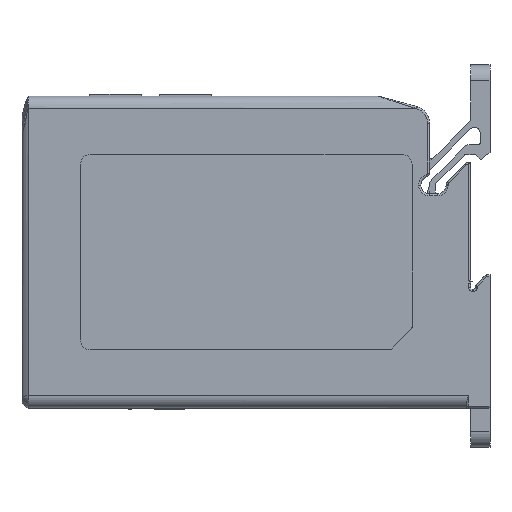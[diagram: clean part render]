
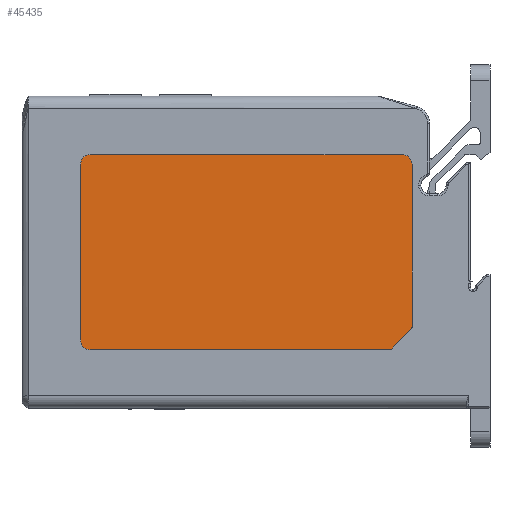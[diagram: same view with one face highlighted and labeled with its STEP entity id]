
A CAD part, front view. The second image highlights one B-rep face of the part: STEP entity #45435.
In plain terms, the highlighted planar face has unit normal (0, -1, 0).
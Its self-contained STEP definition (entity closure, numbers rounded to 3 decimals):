
#21811=DIRECTION('',(-1.,0.,0.));
#21812=VECTOR('',#21811,76.793);
#21813=CARTESIAN_POINT('',(36.793,-1.75,-25.));
#21814=LINE('',#21813,#21812);
#21823=DIRECTION('',(0.707,0.,0.707));
#21824=VECTOR('',#21823,7.364);
#21825=CARTESIAN_POINT('',(37.146,-1.75,-24.854));
#21826=LINE('',#21825,#21824);
#21827=CARTESIAN_POINT('',(36.793,-1.75,-24.5));
#21828=DIRECTION('',(0.,-1.,0.));
#21829=DIRECTION('',(0.,0.,-1.));
#21830=AXIS2_PLACEMENT_3D('',#21827,#21828,#21829);
#21832=CARTESIAN_POINT('',(-40.,-1.75,-22.5));
#21833=DIRECTION('',(0.,-1.,0.));
#21834=DIRECTION('',(-1.,0.,0.));
#21835=AXIS2_PLACEMENT_3D('',#21832,#21833,#21834);
#21837=CARTESIAN_POINT('',(-40.,-1.75,22.5));
#21838=DIRECTION('',(0.,-1.,0.));
#21839=DIRECTION('',(0.,0.,1.));
#21840=AXIS2_PLACEMENT_3D('',#21837,#21838,#21839);
#21842=CARTESIAN_POINT('',(40.,-1.75,22.5));
#21843=DIRECTION('',(0.,-1.,0.));
#21844=DIRECTION('',(1.,0.,0.));
#21845=AXIS2_PLACEMENT_3D('',#21842,#21843,#21844);
#21847=CARTESIAN_POINT('',(42.,-1.75,-19.293));
#21848=DIRECTION('',(0.,-1.,0.));
#21849=DIRECTION('',(0.707,0.,-0.707));
#21850=AXIS2_PLACEMENT_3D('',#21847,#21848,#21849);
#21868=DIRECTION('',(0.,0.,-1.));
#21869=VECTOR('',#21868,41.793);
#21870=CARTESIAN_POINT('',(42.5,-1.75,22.5));
#21871=LINE('',#21870,#21869);
#21880=DIRECTION('',(1.,0.,0.));
#21881=VECTOR('',#21880,80.);
#21882=CARTESIAN_POINT('',(-40.,-1.75,25.));
#21883=LINE('',#21882,#21881);
#21892=DIRECTION('',(0.,0.,1.));
#21893=VECTOR('',#21892,45.);
#21894=CARTESIAN_POINT('',(-42.5,-1.75,-22.5));
#21895=LINE('',#21894,#21893);
#38407=CARTESIAN_POINT('',(42.354,-1.75,-19.646));
#38408=CARTESIAN_POINT('',(42.5,-1.75,-19.293));
#38409=VERTEX_POINT('',#38407);
#38410=VERTEX_POINT('',#38408);
#38411=CARTESIAN_POINT('',(37.146,-1.75,-24.854));
#38412=VERTEX_POINT('',#38411);
#38413=CARTESIAN_POINT('',(42.5,-1.75,22.5));
#38414=VERTEX_POINT('',#38413);
#38415=CARTESIAN_POINT('',(40.,-1.75,25.));
#38416=VERTEX_POINT('',#38415);
#38417=CARTESIAN_POINT('',(-40.,-1.75,25.));
#38418=VERTEX_POINT('',#38417);
#38419=CARTESIAN_POINT('',(-42.5,-1.75,22.5));
#38420=VERTEX_POINT('',#38419);
#38421=CARTESIAN_POINT('',(-42.5,-1.75,-22.5));
#38422=VERTEX_POINT('',#38421);
#38423=CARTESIAN_POINT('',(-40.,-1.75,-25.));
#38424=VERTEX_POINT('',#38423);
#38425=CARTESIAN_POINT('',(36.793,-1.75,-25.));
#38426=VERTEX_POINT('',#38425);
#45410=CARTESIAN_POINT('',(-42.5,-1.75,25.));
#45411=DIRECTION('',(0.,1.,0.));
#45412=DIRECTION('',(0.,0.,1.));
#45413=AXIS2_PLACEMENT_3D('',#45410,#45411,#45412);
#45414=PLANE('',#45413);
#45416=ORIENTED_EDGE('',*,*,#45415,.F.);
#45418=ORIENTED_EDGE('',*,*,#45417,.F.);
#45419=ORIENTED_EDGE('',*,*,#45389,.T.);
#45420=ORIENTED_EDGE('',*,*,#45401,.F.);
#45422=ORIENTED_EDGE('',*,*,#45421,.T.);
#45424=ORIENTED_EDGE('',*,*,#45423,.F.);
#45426=ORIENTED_EDGE('',*,*,#45425,.T.);
#45428=ORIENTED_EDGE('',*,*,#45427,.F.);
#45430=ORIENTED_EDGE('',*,*,#45429,.T.);
#45432=ORIENTED_EDGE('',*,*,#45431,.F.);
#45433=EDGE_LOOP('',(#45416,#45418,#45419,#45420,#45422,#45424,#45426,#45428,
#45430,#45432));
#45434=FACE_OUTER_BOUND('',#45433,.F.);
#45435=ADVANCED_FACE('',(#45434),#45414,.F.);
#21831=CIRCLE('',#21830,0.5);
#21836=CIRCLE('',#21835,2.5);
#21841=CIRCLE('',#21840,2.5);
#21846=CIRCLE('',#21845,2.5);
#21851=CIRCLE('',#21850,0.5);
#45389=EDGE_CURVE('',#38426,#38424,#21814,.T.);
#45401=EDGE_CURVE('',#38422,#38424,#21836,.T.);
#45415=EDGE_CURVE('',#38412,#38409,#21826,.T.);
#45417=EDGE_CURVE('',#38426,#38412,#21831,.T.);
#45421=EDGE_CURVE('',#38422,#38420,#21895,.T.);
#45423=EDGE_CURVE('',#38418,#38420,#21841,.T.);
#45425=EDGE_CURVE('',#38418,#38416,#21883,.T.);
#45427=EDGE_CURVE('',#38414,#38416,#21846,.T.);
#45429=EDGE_CURVE('',#38414,#38410,#21871,.T.);
#45431=EDGE_CURVE('',#38409,#38410,#21851,.T.);
